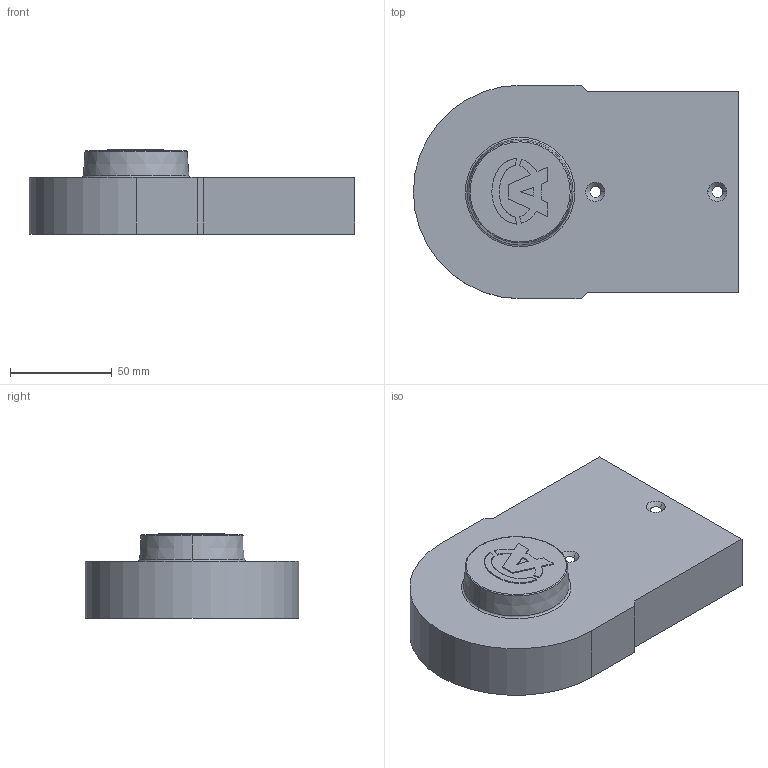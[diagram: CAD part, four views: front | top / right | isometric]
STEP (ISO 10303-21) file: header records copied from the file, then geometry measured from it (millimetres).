
FILE_DESCRIPTION (( 'STEP AP203' ), '1' );
FILE_NAME ('084.803.005-1.STEP', '2013-01-29T13:59:57', ( 'Alusic' ), ( 'Alusic' ), 'SwSTEP 2.0', 'SolidWorks 2011', '' );
FILE_SCHEMA (( 'CONFIG_CONTROL_DESIGN' ));
Length unit declared in the file: millimetre
Products named in the file (1): 084.803.005-1
Bounding box: 160 x 105 x 41.5 mm (x, y, z)
Volume: 54581.8 mm3; surface area: 55192.3 mm2
Topology: 1 solids, 1 shells, 224 faces, 647 edges, 430 vertices
Faces by surface type: plane 202, cylinder 10, cone 8, torus 4
Entity records: 7330 total; most frequent: CARTESIAN_POINT 1302, ORIENTED_EDGE 1294, DIRECTION 1143, EDGE_CURVE 647, VECTOR 601, LINE 601, VERTEX_POINT 430, AXIS2_PLACEMENT_3D 271
